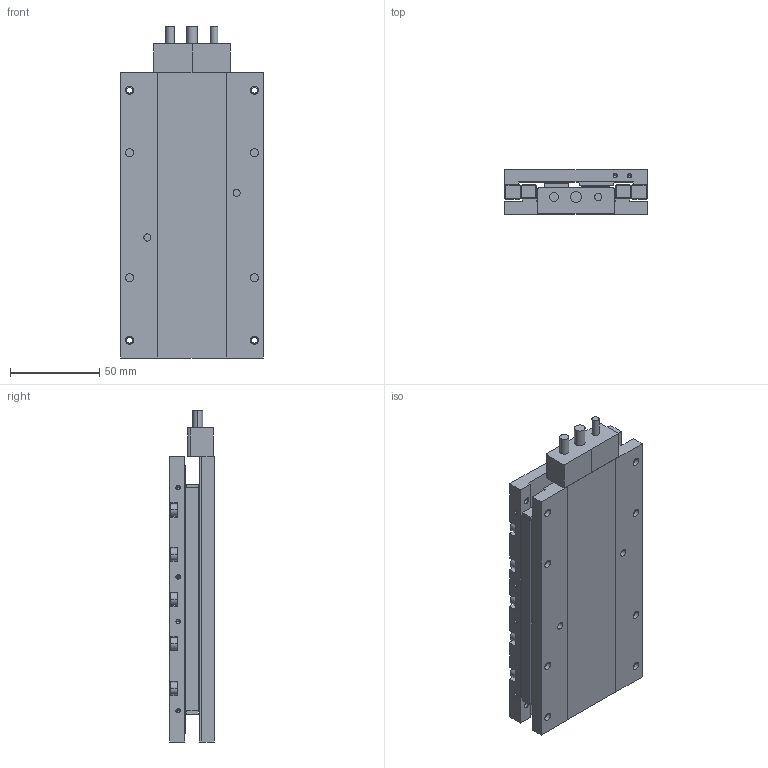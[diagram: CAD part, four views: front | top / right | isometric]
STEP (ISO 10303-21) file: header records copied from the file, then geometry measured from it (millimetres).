
FILE_DESCRIPTION((''),'2;1');
FILE_NAME('MX80L-T03_ASM','2008-06-23T',('FK20128'),(''),'PRO/ENGINEER BY PARAMETRIC TECHNOLOGY CORPORATION, 2006200','PRO/ENGINEER BY PARAMETRIC TECHNOLOGY CORPORATION, 2006200','');
FILE_SCHEMA(('CONFIG_CONTROL_DESIGN'));
Length unit declared in the file: millimetre
Products named in the file (4): MX80L-BASE-100MM; MX80L-TOP-100MM; CABLE-ASSEMBLY-MX80L-T03-T04; MX80L-T03_ASM
Assembly tree (3 placements, depth 2):
  MX80L-T03_ASM
    MX80L-BASE-100MM
    MX80L-TOP-100MM
    CABLE-ASSEMBLY-MX80L-T03-T04
Bounding box: 80 x 25 x 186 mm (x, y, z)
Volume: 238990.5 mm3; surface area: 84007.2 mm2
Topology: 3 solids, 29 shells, 460 faces, 1194 edges, 762 vertices
Faces by surface type: plane 230, cylinder 186, cone 44
Entity records: 14072 total; most frequent: DIRECTION 2538, CARTESIAN_POINT 2403, ORIENTED_EDGE 2236, EDGE_CURVE 1170, AXIS2_PLACEMENT_3D 897, VERTEX_POINT 762, VECTOR 744, LINE 744
